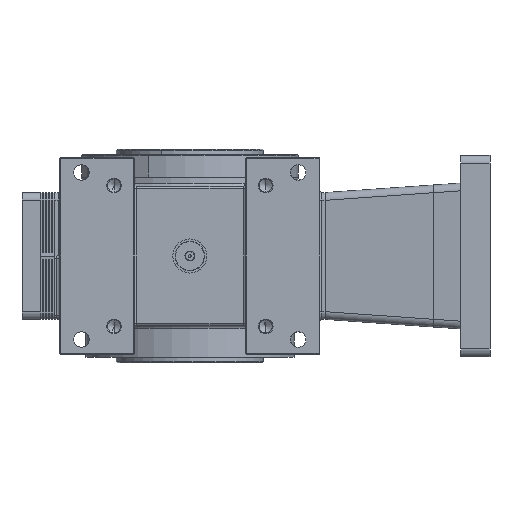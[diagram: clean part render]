
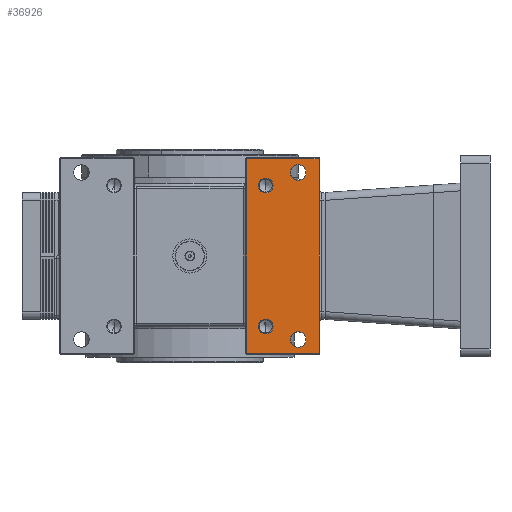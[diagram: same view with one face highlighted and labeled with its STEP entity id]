
A CAD part, front view. The second image highlights one B-rep face of the part: STEP entity #36926.
In plain terms, the highlighted planar face has unit normal (0, -1, 0).
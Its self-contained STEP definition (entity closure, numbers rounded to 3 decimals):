
#197 = VERTEX_POINT ( 'NONE', #59987 ) ;
#865 = VECTOR ( 'NONE', #2114, 1000. ) ;
#1657 = EDGE_LOOP ( 'NONE', ( #43265, #62037 ) ) ;
#1930 = EDGE_LOOP ( 'NONE', ( #61193, #61602, #40190, #15600 ) ) ;
#2114 = DIRECTION ( 'NONE',  ( 1., 0., 0. ) ) ;
#2903 = AXIS2_PLACEMENT_3D ( 'NONE', #47067, #27228, #22129 ) ;
#2970 = CARTESIAN_POINT ( 'NONE',  ( 49., -98.5, -45.5 ) ) ;
#3535 = AXIS2_PLACEMENT_3D ( 'NONE', #22035, #36755, #56269 ) ;
#3989 = ORIENTED_EDGE ( 'NONE', *, *, #14485, .T. ) ;
#4003 = DIRECTION ( 'NONE',  ( 0., 1., 0. ) ) ;
#4049 = VERTEX_POINT ( 'NONE', #20950 ) ;
#5242 = CARTESIAN_POINT ( 'NONE',  ( 70., -98.5, -59. ) ) ;
#5247 = LINE ( 'NONE', #15185, #20848 ) ;
#5448 = DIRECTION ( 'NONE',  ( 0., 1., 0. ) ) ;
#6764 = CARTESIAN_POINT ( 'NONE',  ( 70., -98.5, 54. ) ) ;
#7333 = ORIENTED_EDGE ( 'NONE', *, *, #52280, .T. ) ;
#8109 = AXIS2_PLACEMENT_3D ( 'NONE', #2970, #12557, #23161 ) ;
#8933 = ORIENTED_EDGE ( 'NONE', *, *, #44421, .T. ) ;
#9309 = CARTESIAN_POINT ( 'NONE',  ( 36.5, -98.5, -63. ) ) ;
#9489 = CARTESIAN_POINT ( 'NONE',  ( 49., -98.5, 45.5 ) ) ;
#10098 = CIRCLE ( 'NONE', #45910, 5. ) ;
#10171 = VERTEX_POINT ( 'NONE', #55428 ) ;
#10534 = ORIENTED_EDGE ( 'NONE', *, *, #15419, .T. ) ;
#10766 = VERTEX_POINT ( 'NONE', #5242 ) ;
#10992 = CARTESIAN_POINT ( 'NONE',  ( 70., -98.5, 54. ) ) ;
#11109 = AXIS2_PLACEMENT_3D ( 'NONE', #9489, #19135, #57889 ) ;
#12557 = DIRECTION ( 'NONE',  ( 0., 1., 0. ) ) ;
#12671 = CIRCLE ( 'NONE', #17798, 5. ) ;
#13128 = VECTOR ( 'NONE', #42594, 1000. ) ;
#13166 = EDGE_CURVE ( 'NONE', #38702, #60503, #42124, .T. ) ;
#13712 = CARTESIAN_POINT ( 'NONE',  ( 49., -98.5, 50.25 ) ) ;
#14190 = CIRCLE ( 'NONE', #11109, 4.75 ) ;
#14485 = EDGE_CURVE ( 'NONE', #34157, #48109, #35754, .T. ) ;
#15185 = CARTESIAN_POINT ( 'NONE',  ( 36.5, -98.5, -63.5 ) ) ;
#15419 = EDGE_CURVE ( 'NONE', #10171, #10766, #56521, .T. ) ;
#15600 = ORIENTED_EDGE ( 'NONE', *, *, #13166, .T. ) ;
#15728 = DIRECTION ( 'NONE',  ( 0., 0., 1. ) ) ;
#15991 = EDGE_CURVE ( 'NONE', #197, #38702, #5247, .T. ) ;
#16310 = CARTESIAN_POINT ( 'NONE',  ( 36., -98.5, 63. ) ) ;
#16523 = EDGE_CURVE ( 'NONE', #60438, #34113, #12671, .T. ) ;
#17798 = AXIS2_PLACEMENT_3D ( 'NONE', #6764, #45527, #50964 ) ;
#17834 = CARTESIAN_POINT ( 'NONE',  ( 70., -98.5, 59. ) ) ;
#19135 = DIRECTION ( 'NONE',  ( 0., 1., 0. ) ) ;
#19783 = VERTEX_POINT ( 'NONE', #13712 ) ;
#19911 = EDGE_LOOP ( 'NONE', ( #3989, #7333 ) ) ;
#20848 = VECTOR ( 'NONE', #62914, 1000. ) ;
#20920 = CIRCLE ( 'NONE', #3535, 5. ) ;
#20938 = DIRECTION ( 'NONE',  ( 0., 1., 0. ) ) ;
#20950 = CARTESIAN_POINT ( 'NONE',  ( 49., -98.5, 40.75 ) ) ;
#21351 = CARTESIAN_POINT ( 'NONE',  ( 84., -98.5, -63. ) ) ;
#22035 = CARTESIAN_POINT ( 'NONE',  ( 70., -98.5, -54. ) ) ;
#22129 = DIRECTION ( 'NONE',  ( 0., 0., 1. ) ) ;
#22140 = CARTESIAN_POINT ( 'NONE',  ( 83.5, -98.5, 45. ) ) ;
#22159 = EDGE_LOOP ( 'NONE', ( #26367, #8933 ) ) ;
#22825 = CARTESIAN_POINT ( 'NONE',  ( 83.5, -98.5, 63. ) ) ;
#23161 = DIRECTION ( 'NONE',  ( 0., 0., 1. ) ) ;
#23544 = DIRECTION ( 'NONE',  ( 0., 0., 1. ) ) ;
#24495 = FACE_OUTER_BOUND ( 'NONE', #1930, .T. ) ;
#25615 = CARTESIAN_POINT ( 'NONE',  ( 83.5, -98.5, -63. ) ) ;
#25911 = AXIS2_PLACEMENT_3D ( 'NONE', #30763, #5448, #59254 ) ;
#26367 = ORIENTED_EDGE ( 'NONE', *, *, #16523, .T. ) ;
#27228 = DIRECTION ( 'NONE',  ( 0., 1., 0. ) ) ;
#28624 = ORIENTED_EDGE ( 'NONE', *, *, #39307, .T. ) ;
#28665 = FACE_BOUND ( 'NONE', #19911, .T. ) ;
#28713 = EDGE_CURVE ( 'NONE', #19783, #4049, #55519, .T. ) ;
#30763 = CARTESIAN_POINT ( 'NONE',  ( 49., -98.5, 45.5 ) ) ;
#32229 = VECTOR ( 'NONE', #35859, 1000. ) ;
#33789 = FACE_BOUND ( 'NONE', #1657, .T. ) ;
#34113 = VERTEX_POINT ( 'NONE', #17834 ) ;
#34157 = VERTEX_POINT ( 'NONE', #53918 ) ;
#34557 = VERTEX_POINT ( 'NONE', #22825 ) ;
#34591 = CARTESIAN_POINT ( 'NONE',  ( 70., -98.5, 49. ) ) ;
#35282 = CARTESIAN_POINT ( 'NONE',  ( 70., -98.5, -54. ) ) ;
#35754 = CIRCLE ( 'NONE', #8109, 4.75 ) ;
#35859 = DIRECTION ( 'NONE',  ( -1., 0., 0. ) ) ;
#36755 = DIRECTION ( 'NONE',  ( 0., 1., 0. ) ) ;
#36926 = ADVANCED_FACE ( 'NONE', ( #47876, #58116, #24495, #28665, #33789 ), #63225, .F. ) ;
#36951 = EDGE_LOOP ( 'NONE', ( #28624, #10534 ) ) ;
#38702 = VERTEX_POINT ( 'NONE', #9309 ) ;
#39307 = EDGE_CURVE ( 'NONE', #10766, #10171, #20920, .T. ) ;
#40190 = ORIENTED_EDGE ( 'NONE', *, *, #15991, .T. ) ;
#40663 = LINE ( 'NONE', #16310, #32229 ) ;
#42124 = LINE ( 'NONE', #21351, #865 ) ;
#42594 = DIRECTION ( 'NONE',  ( 0., 0., 1. ) ) ;
#43265 = ORIENTED_EDGE ( 'NONE', *, *, #55037, .T. ) ;
#44421 = EDGE_CURVE ( 'NONE', #34113, #60438, #10098, .T. ) ;
#45527 = DIRECTION ( 'NONE',  ( 0., 1., 0. ) ) ;
#45910 = AXIS2_PLACEMENT_3D ( 'NONE', #10992, #20938, #59995 ) ;
#46453 = LINE ( 'NONE', #22140, #13128 ) ;
#47067 = CARTESIAN_POINT ( 'NONE',  ( 49., -98.5, -45.5 ) ) ;
#47232 = AXIS2_PLACEMENT_3D ( 'NONE', #53300, #4003, #23544 ) ;
#47876 = FACE_BOUND ( 'NONE', #22159, .T. ) ;
#48109 = VERTEX_POINT ( 'NONE', #58917 ) ;
#49437 = EDGE_CURVE ( 'NONE', #34557, #197, #40663, .T. ) ;
#50964 = DIRECTION ( 'NONE',  ( 0., 0., 1. ) ) ;
#52280 = EDGE_CURVE ( 'NONE', #48109, #34157, #60180, .T. ) ;
#53300 = CARTESIAN_POINT ( 'NONE',  ( -84., -98.5, 45. ) ) ;
#53440 = EDGE_CURVE ( 'NONE', #60503, #34557, #46453, .T. ) ;
#53918 = CARTESIAN_POINT ( 'NONE',  ( 49., -98.5, -50.25 ) ) ;
#55037 = EDGE_CURVE ( 'NONE', #4049, #19783, #14190, .T. ) ;
#55428 = CARTESIAN_POINT ( 'NONE',  ( 70., -98.5, -49. ) ) ;
#55519 = CIRCLE ( 'NONE', #25911, 4.75 ) ;
#56269 = DIRECTION ( 'NONE',  ( 0., 0., 1. ) ) ;
#56521 = CIRCLE ( 'NONE', #57533, 5. ) ;
#57533 = AXIS2_PLACEMENT_3D ( 'NONE', #35282, #61418, #15728 ) ;
#57889 = DIRECTION ( 'NONE',  ( 0., 0., 1. ) ) ;
#58116 = FACE_BOUND ( 'NONE', #36951, .T. ) ;
#58917 = CARTESIAN_POINT ( 'NONE',  ( 49., -98.5, -40.75 ) ) ;
#59254 = DIRECTION ( 'NONE',  ( 0., 0., 1. ) ) ;
#59987 = CARTESIAN_POINT ( 'NONE',  ( 36.5, -98.5, 63. ) ) ;
#59995 = DIRECTION ( 'NONE',  ( 0., 0., 1. ) ) ;
#60180 = CIRCLE ( 'NONE', #2903, 4.75 ) ;
#60438 = VERTEX_POINT ( 'NONE', #34591 ) ;
#60503 = VERTEX_POINT ( 'NONE', #25615 ) ;
#61193 = ORIENTED_EDGE ( 'NONE', *, *, #53440, .T. ) ;
#61418 = DIRECTION ( 'NONE',  ( 0., 1., 0. ) ) ;
#61602 = ORIENTED_EDGE ( 'NONE', *, *, #49437, .T. ) ;
#62037 = ORIENTED_EDGE ( 'NONE', *, *, #28713, .T. ) ;
#62914 = DIRECTION ( 'NONE',  ( 0., 0., -1. ) ) ;
#63225 = PLANE ( 'NONE',  #47232 ) ;
